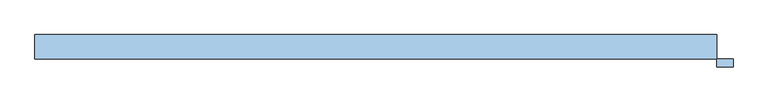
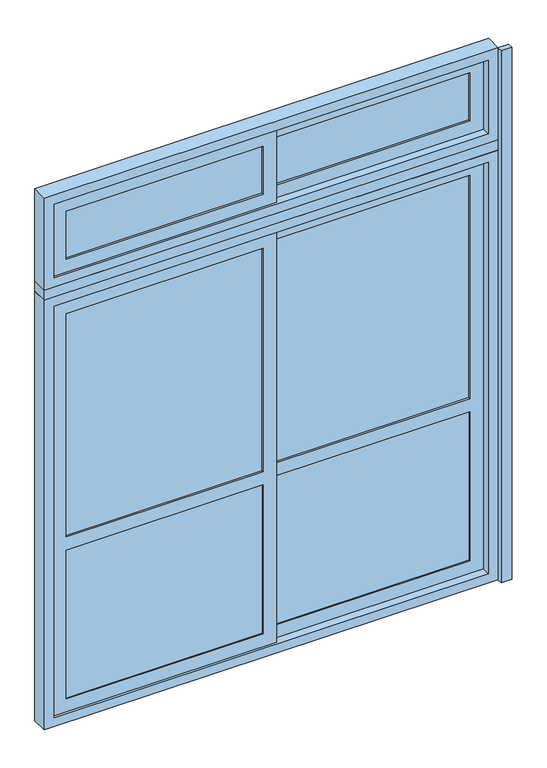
"""IFC4 building model written with IfcOpenShell, lengths in millimetres: window geometry, A7 Ventana_Corrediza_PC_2 hojas : A7.1 Ventana_Corrediza_PC_2 hojas 210x260."""

from ifc_helpers import new_model, si_unit, frame, origin, origin_with_axes, place, context, project, spatial, polyline, outline, extrude, source, transform, mapped, element, save


def window_895a3c43(model_context):
    return source(origin(), model_context, "Body", "SweptSolid", [
        extrude(outline(polyline([(-31.5, 28.0), (-942.0, 28.0), (-942.0, 44.0), (-31.5, 44.0), (-31.5, 28.0)])), frame((0.0, 0.0, 108.0), z_axis=(0.0, 0.0, 1.0), x_axis=(1.0, 0.0, 0.0)), (0.0, 0.0, 1.0), 728.0),
        extrude(outline(polyline([(942.0, 56.0), (31.5, 56.0), (31.5, 72.0), (942.0, 72.0), (942.0, 56.0)])), frame((0.0, 0.0, 108.0), z_axis=(0.0, 0.0, 1.0), x_axis=(1.0, 0.0, 0.0)), (0.0, 0.0, 1.0), 728.0),
        extrude(outline(polyline([(-31.5, 31.5769719), (-942.0, 31.5769719), (-942.0, 40.4230281), (-31.5, 40.4230281), (-31.5, 31.5769719)])), frame((0.0, 0.0, 2258.0), z_axis=(0.0, 0.0, 1.0), x_axis=(1.0, 0.0, 0.0)), (0.0, 0.0, 1.0), 234.0),
        extrude(outline(polyline([(-31.5, 31.5769719), (-942.0, 31.5769719), (-942.0, 40.4230281), (-31.5, 40.4230281), (-31.5, 31.5769719)])), frame((0.0, 0.0, 900.0), z_axis=(0.0, 0.0, 1.0), x_axis=(1.0, 0.0, 0.0)), (0.0, 0.0, 1.0), 1092.0),
        extrude(outline(polyline([(942.0, 59.5769719), (31.5, 59.5769719), (31.5, 68.4230281), (942.0, 68.4230281), (942.0, 59.5769719)])), frame((0.0, 0.0, 2258.0), z_axis=(0.0, 0.0, 1.0), x_axis=(1.0, 0.0, 0.0)), (0.0, 0.0, 1.0), 234.0),
        extrude(outline(polyline([(942.0, 59.5769719), (31.5, 59.5769719), (31.5, 68.4230281), (942.0, 68.4230281), (942.0, 59.5769719)])), frame((0.0, 0.0, 900.0), z_axis=(0.0, 0.0, 1.0), x_axis=(1.0, 0.0, 0.0)), (0.0, 0.0, 1.0), 1092.0),
        extrude(outline(polyline([(45.0, -1005.0), (45.0, 31.5), (2055.0, 31.5), (2055.0, -1005.0), (45.0, -1005.0)]), holes=[polyline([(900.0, -942.0), (1992.0, -942.0), (1992.0, -31.5), (900.0, -31.5), (900.0, -942.0)]), polyline([(108.0, -942.0), (836.0, -942.0), (836.0, -31.5), (108.0, -31.5), (108.0, -942.0)])]), frame((0.0, 22.0, 0.0), z_axis=(0.0, 1.0, 0.0), x_axis=(0.0, 0.0, 1.0)), (0.0, 0.0, 1.0), 28.0),
        extrude(outline(polyline([(2555.0, -1005.0), (2195.0, -1005.0), (2195.0, 31.5), (2555.0, 31.5), (2555.0, -1005.0)]), holes=[polyline([(2258.0, -942.0), (2492.0, -942.0), (2492.0, -31.5), (2258.0, -31.5), (2258.0, -942.0)])]), frame((0.0, 22.0, 0.0), z_axis=(0.0, 1.0, 0.0), x_axis=(0.0, 0.0, 1.0)), (0.0, 0.0, 1.0), 28.0),
        extrude(outline(polyline([(2055.0, 1005.0), (2055.0, -31.5), (45.0, -31.5), (45.0, 1005.0), (2055.0, 1005.0)]), holes=[polyline([(1992.0, 31.5), (1992.0, 942.0), (900.0, 942.0), (900.0, 31.5), (1992.0, 31.5)]), polyline([(836.0, 31.5), (836.0, 942.0), (108.0, 942.0), (108.0, 31.5), (836.0, 31.5)])]), frame((0.0, 50.0, 0.0), z_axis=(0.0, 1.0, 0.0), x_axis=(0.0, 0.0, 1.0)), (0.0, 0.0, 1.0), 28.0),
        extrude(outline(polyline([(2195.0, -31.5), (2195.0, 1005.0), (2555.0, 1005.0), (2555.0, -31.5), (2195.0, -31.5)]), holes=[polyline([(2492.0, 31.5), (2492.0, 942.0), (2258.0, 942.0), (2258.0, 31.5), (2492.0, 31.5)])]), frame((0.0, 50.0, 0.0), z_axis=(0.0, 1.0, 0.0), x_axis=(0.0, 0.0, 1.0)), (0.0, 0.0, 1.0), 28.0),
        extrude(outline(polyline([(2100.0, -1050.0), (0.0, -1050.0), (0.0, 1050.0), (2100.0, 1050.0), (2100.0, -1050.0)]), holes=[polyline([(2055.0, -1005.0), (2055.0, 1005.0), (45.0, 1005.0), (45.0, -1005.0), (2055.0, -1005.0)])]), frame((0.0, 12.5, 0.0), z_axis=(0.0, 1.0, 0.0), x_axis=(0.0, 0.0, 1.0)), (0.0, 0.0, 1.0), 75.0),
        extrude(outline(polyline([(2600.0, -1050.0), (2150.0, -1050.0), (2150.0, 1050.0), (2600.0, 1050.0), (2600.0, -1050.0)]), holes=[polyline([(2555.0, -1005.0), (2555.0, 1005.0), (2195.0, 1005.0), (2195.0, -1005.0), (2555.0, -1005.0)])]), frame((0.0, 12.5, 0.0), z_axis=(0.0, 1.0, 0.0), x_axis=(0.0, 0.0, 1.0)), (0.0, 0.0, 1.0), 75.0),
        extrude(outline(polyline([(1050.0, 12.5), (-1050.0, 12.5), (-1050.0, 87.5), (1050.0, 87.5), (1050.0, 12.5)])), frame((0.0, 0.0, 2100.0), z_axis=(0.0, 0.0, 1.0), x_axis=(1.0, 0.0, 0.0)), (0.0, 0.0, 1.0), 50.0),
        extrude(outline(polyline([(1100.0, -12.5), (1050.0, -12.5), (1050.0, 12.5), (1100.0, 12.5), (1100.0, -12.5)])), origin_with_axes(), (0.0, 0.0, 1.0), 2600.0),
    ])


if __name__ == "__main__":
    model = new_model("IFC4")
    model_context = context("Model", 3, world=origin())
    ifc_project = project(units=[si_unit("LENGTHUNIT", "METRE", prefix="MILLI")], contexts=[model_context])
    site = spatial("IfcSite", under=ifc_project)
    building = spatial("IfcBuilding", under=site)
    placement = place(None, origin())
    window_shape = window_895a3c43(model_context)
    element("IfcWindow", 1, ObjectType="A7 Ventana_Corrediza_PC_2 hojas : A7.1 Ventana_Corrediza_PC_2 hojas 210x260", at=placement, inside=building, context=model_context, shape_type="MappedRepresentation", body=[
        mapped(window_shape, transform((0.0, 0.0, 0.0), x_axis=(1.0, 0.0, 0.0), y_axis=(0.0, 1.0, 0.0), z_axis=(0.0, 0.0, 1.0))),
    ])
    save(model, "model.ifc")
